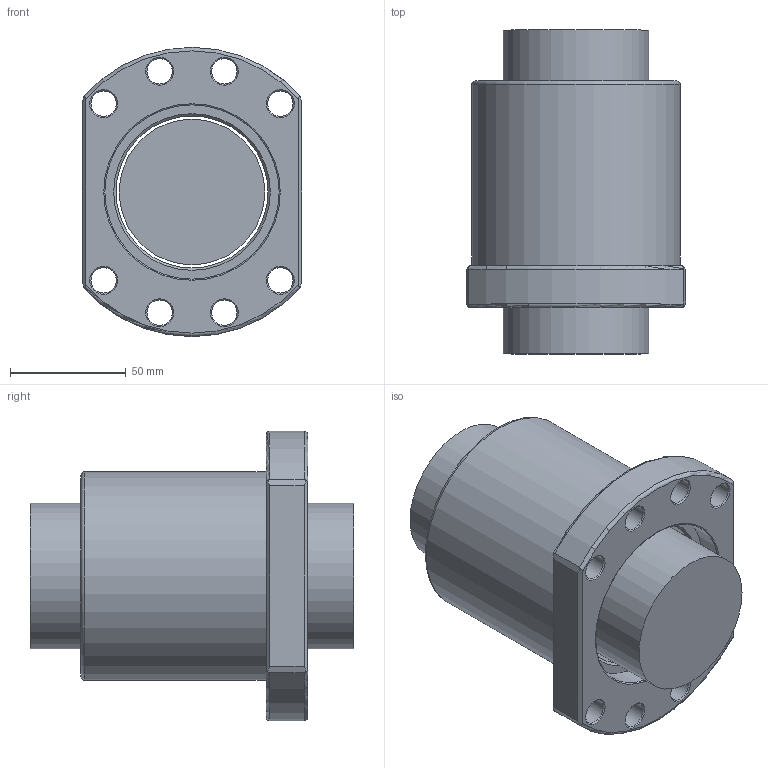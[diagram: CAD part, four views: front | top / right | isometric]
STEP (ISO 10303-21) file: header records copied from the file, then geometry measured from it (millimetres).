
FILE_DESCRIPTION(/* description */ (''),/* implementation_level */ '2;1');
FILE_NAME(/* name */ '6310.prt.step',/* time_stamp */ '2008-12-05T16:32:34+08:00',/* author */ (''),/* organization */ (''),/* preprocessor_version */ 'ST-DEVELOPER v11',/* originating_system */ 'SIEMENS UGS NX 6.0',/* authorisation */ '');
FILE_SCHEMA (('AUTOMOTIVE_DESIGN { 1 0 10303 214 1 1 1 1 }'));
Length unit declared in the file: millimetre
Products named in the file (1): 6310
Bounding box: 95 x 140 x 125 mm (x, y, z)
Volume: 766639.4 mm3; surface area: 100809.3 mm2
Topology: 2 solids, 2 shells, 57 faces, 132 edges, 82 vertices
Faces by surface type: cone 18, plane 17, cylinder 15, torus 7
Full cylindrical faces by diameter (mm): 11 x8, 62.95 x1, 65.7 x1, 75.3 x2, 90 x1
Entity records: 1694 total; most frequent: CARTESIAN_POINT 472, DIRECTION 250, ORIENTED_EDGE 190, AXIS2_PLACEMENT_3D 113, EDGE_LOOP 112, EDGE_CURVE 95, FACE_BOUND 94, VERTEX_POINT 79
